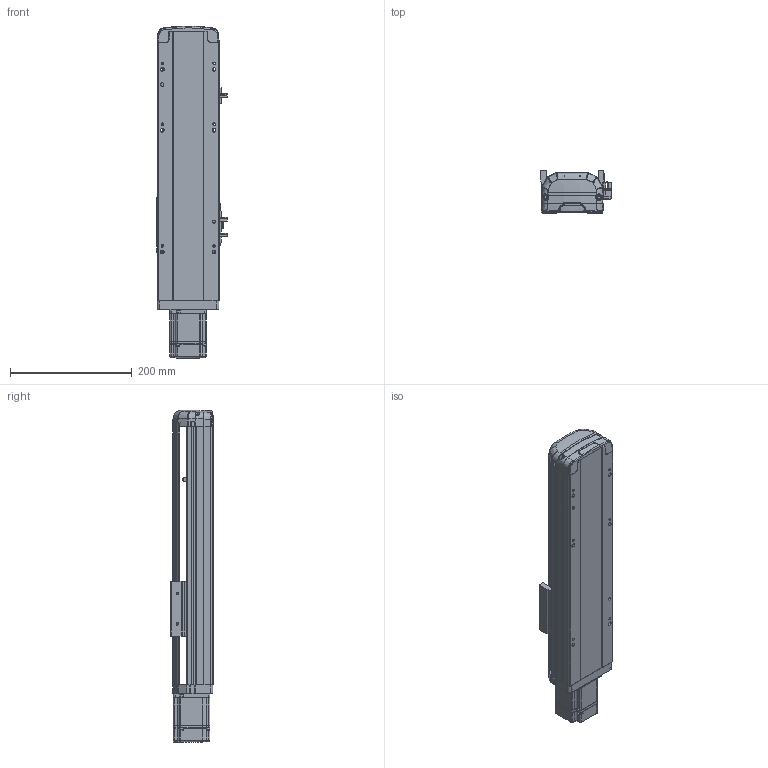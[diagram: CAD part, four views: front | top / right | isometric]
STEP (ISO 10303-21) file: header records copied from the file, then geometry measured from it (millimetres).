
FILE_DESCRIPTION (( 'STEP AP214' ), '1' );
FILE_NAME ('RTH10-XX-200-E-M20-C4.STEP', '2025-10-24T10:41:54', ( '' ), ( '' ), 'SwSTEP 2.0', 'SolidWorks 2018', '' );
FILE_SCHEMA (( 'AUTOMOTIVE_DESIGN' ));
Length unit declared in the file: millimetre
Products named in the file (9): N_RTH13-L-012感应片外置^RTH10-XX-XX-E-M20-C4（方程式）; N_OMRON EE-SX672 換覜ん^RTH10-XX-XX-E-M20-C4ㄗ源最宒ㄘ; N_200W-1^RTH10-XX-XX-E-M20-C4（方程式）; N_RTH12-E-011P-臏倰第菁釱^RTH10-XX-XX-E-M20-C4ㄗ源最宒ㄘ; N_RTH12-E-007P-奻裔^RTH10-XX-XX-E-M20-C4ㄗ源最宒ㄘ; N_RTH12-E-008-M20电机板^RTH10-XX-XX-E-M20-C4（方程式）; N_RTH12-GY-004-滑座^RTH10-XX-XX-E-M20-C4（方程式）; N_RTH12-GY-001P^RTH10-XX-XX-E-M20-C4（方程式）; RTH10-XX-200-E-M20-C4
Assembly tree (10 placements, depth 2):
  RTH10-XX-200-E-M20-C4
    N_RTH12-E-011P-臏倰第菁釱^RTH10-XX-XX-E-M20-C4ㄗ源最宒ㄘ
    N_RTH13-L-012感应片外置^RTH10-XX-XX-E-M20-C4（方程式）
    N_OMRON EE-SX672 換覜ん^RTH10-XX-XX-E-M20-C4ㄗ源最宒ㄘ  x3
    N_RTH12-E-007P-奻裔^RTH10-XX-XX-E-M20-C4ㄗ源最宒ㄘ
    N_RTH12-GY-001P^RTH10-XX-XX-E-M20-C4（方程式）
    N_RTH12-GY-004-滑座^RTH10-XX-XX-E-M20-C4（方程式）
    N_200W-1^RTH10-XX-XX-E-M20-C4（方程式）
    N_RTH12-E-008-M20电机板^RTH10-XX-XX-E-M20-C4（方程式）
Bounding box: 116.5 x 70 x 545.31 mm (x, y, z)
Volume: 2152023 mm3; surface area: 356641.9 mm2
Topology: 9 solids, 11 shells, 1968 faces, 5452 edges, 3578 vertices
Faces by surface type: plane 1000, bspline 472, cylinder 461, cone 33, torus 2
Entity records: 58798 total; most frequent: CARTESIAN_POINT 23098, ORIENTED_EDGE 7984, DIRECTION 6168, EDGE_CURVE 3998, VERTEX_POINT 2622, VECTOR 2176, LINE 2176, AXIS2_PLACEMENT_3D 1996
